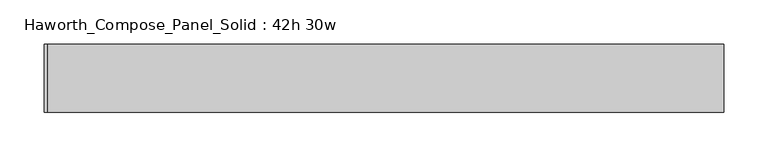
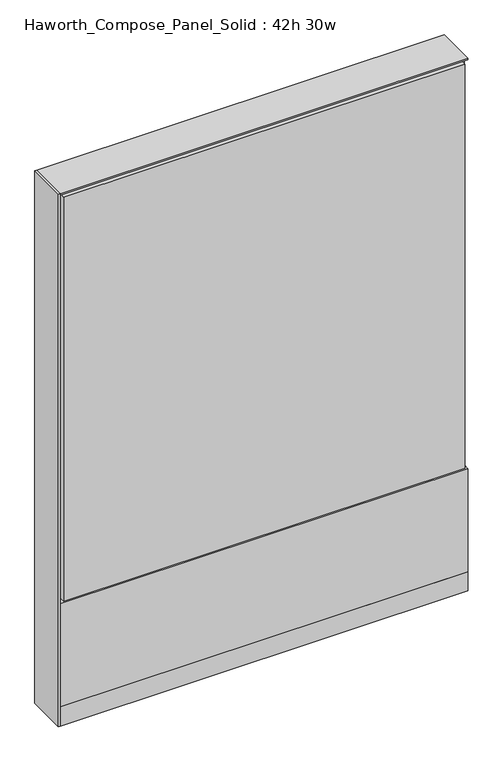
"""IFC4 building model written with IfcOpenShell, lengths in millimetres: furniture geometry, Haworth_Compose_Panel_Solid : 42h 30w."""

from ifc_helpers import new_model, si_unit, point, frame, frame_2d, origin, origin_with_axes, place, context, project, spatial, polyline, circle_curve, trimmed, segment, composite_curve, outline, extrude, source, transform, mapped, element, save


def haworth_compose_panel_solid_42h_30w_086e4ea6(model_context):
    return source(origin(), model_context, "Body", "SweptSolid", [
        extrude(outline(composite_curve([segment(trimmed(circle_curve(frame_2d((-302.3597098, 0.0)), 12.7), [point((-315.0597098, 0.0))], [point((-289.6597098, 0.0))], False, "CARTESIAN"), True, "CONTINUOUS"), segment(trimmed(circle_curve(frame_2d((-302.3597098, 0.0)), 12.7), [point((-289.6597098, 0.0))], [point((-315.0597098, 0.0))], False, "CARTESIAN"), True, "CONTINUOUS")], self_intersect=False)), origin_with_axes(), (0.0, 0.0, 1.0), 12.7),
        extrude(outline(composite_curve([segment(trimmed(circle_curve(frame_2d((307.2402902, 0.0)), 12.7), [point((294.5402902, 0.0))], [point((319.9402902, 0.0))], False, "CARTESIAN"), True, "CONTINUOUS"), segment(trimmed(circle_curve(frame_2d((307.2402902, 0.0)), 12.7), [point((319.9402902, 0.0))], [point((294.5402902, 0.0))], False, "CARTESIAN"), True, "CONTINUOUS")], self_intersect=False)), origin_with_axes(), (0.0, 0.0, 1.0), 12.7),
        extrude(outline(polyline([(-381.7347098, 38.1), (-378.5597098, 38.1), (-378.5597098, -38.1), (-381.7347098, -38.1), (-381.7347098, 38.1)])), frame((0.0, 0.0, 12.7), z_axis=(0.0, 0.0, 1.0), x_axis=(1.0, 0.0, 0.0)), (0.0, 0.0, 1.0), 1050.925),
        extrude(outline(polyline([(377.0902902, 38.1), (377.0902902, 25.4), (-372.2097098, 25.4), (-372.2097098, 38.1), (377.0902902, 38.1)])), frame((0.0, 0.0, 53.975), z_axis=(0.0, 0.0, 1.0), x_axis=(1.0, 0.0, 0.0)), (0.0, 0.0, 1.0), 1000.125),
        extrude(outline(polyline([(383.4402902, -38.1), (-378.5597098, -38.1), (-378.5597098, -25.4), (383.4402902, -25.4), (383.4402902, -38.1)])), frame((0.0, 0.0, 50.8), z_axis=(0.0, 0.0, 1.0), x_axis=(1.0, 0.0, 0.0)), (0.0, 0.0, 1.0), 203.2),
        extrude(outline(polyline([(377.0902902, -38.1), (-372.2097098, -38.1), (-372.2097098, -25.4), (377.0902902, -25.4), (377.0902902, -38.1)])), frame((0.0, 0.0, 257.175), z_axis=(0.0, 0.0, 1.0), x_axis=(1.0, 0.0, 0.0)), (0.0, 0.0, 1.0), 796.925),
        extrude(outline(polyline([(383.4402902, 25.4), (383.4402902, -25.4), (-378.5597098, -25.4), (-378.5597098, 25.4), (383.4402902, 25.4)])), frame((0.0, 0.0, 12.7), z_axis=(0.0, 0.0, 1.0), x_axis=(1.0, 0.0, 0.0)), (0.0, 0.0, 1.0), 1047.75),
        extrude(outline(polyline([(-378.5597098, -38.1), (-378.5597098, 38.1), (383.4402902, 38.1), (383.4402902, -38.1), (-378.5597098, -38.1)])), frame((0.0, 0.0, 12.7), z_axis=(0.0, 0.0, 1.0), x_axis=(1.0, 0.0, 0.0)), (0.0, 0.0, 1.0), 38.1),
        extrude(outline(polyline([(-378.5597098, -38.1), (-378.5597098, 38.1), (383.4402902, 38.1), (383.4402902, -38.1), (-378.5597098, -38.1)])), frame((0.0, 0.0, 1060.45), z_axis=(0.0, 0.0, 1.0), x_axis=(1.0, 0.0, 0.0)), (0.0, 0.0, 1.0), 3.175),
    ])


if __name__ == "__main__":
    model = new_model("IFC4")
    model_context = context("Model", 3, world=origin())
    ifc_project = project(units=[si_unit("LENGTHUNIT", "METRE", prefix="MILLI")], contexts=[model_context])
    site = spatial("IfcSite", under=ifc_project)
    building = spatial("IfcBuilding", under=site)
    placement = place(None, origin())
    haworth_compose_panel_solid_42h_30w_shape = haworth_compose_panel_solid_42h_30w_086e4ea6(model_context)
    element("IfcFurniture", 1, ObjectType="Haworth_Compose_Panel_Solid : 42h 30w", at=placement, inside=building, context=model_context, shape_type="MappedRepresentation", body=[
        mapped(haworth_compose_panel_solid_42h_30w_shape, transform((0.0, 0.0, 0.0), x_axis=(1.0, 0.0, 0.0), y_axis=(0.0, 1.0, 0.0), z_axis=(0.0, 0.0, 1.0))),
    ])
    save(model, "model.ifc")
